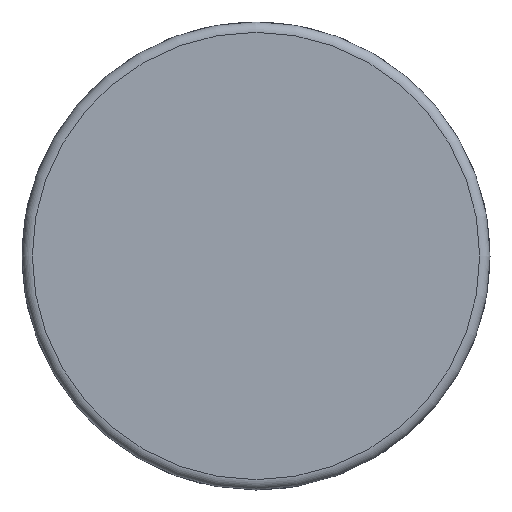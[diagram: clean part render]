
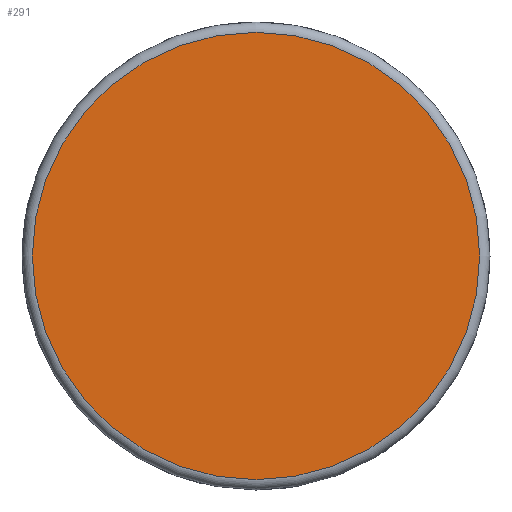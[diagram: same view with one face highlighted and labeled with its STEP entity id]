
A CAD part, front view. The second image highlights one B-rep face of the part: STEP entity #291.
In plain terms, the highlighted planar face has unit normal (0, -1, 0).
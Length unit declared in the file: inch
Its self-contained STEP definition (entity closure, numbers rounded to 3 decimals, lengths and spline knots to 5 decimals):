
#18=PLANE('',#331);
#51=FACE_OUTER_BOUND('',#68,.T.);
#68=EDGE_LOOP('',(#215,#216));
#86=CIRCLE('',#323,0.1305);
#90=CIRCLE('',#327,0.1305);
#124=VERTEX_POINT('',#576);
#125=VERTEX_POINT('',#577);
#157=EDGE_CURVE('',#124,#125,#86,.T.);
#161=EDGE_CURVE('',#125,#124,#90,.T.);
#215=ORIENTED_EDGE('',*,*,#157,.F.);
#216=ORIENTED_EDGE('',*,*,#161,.F.);
#291=ADVANCED_FACE('',(#51),#18,.T.);
#323=AXIS2_PLACEMENT_3D('',#578,#382,#383);
#327=AXIS2_PLACEMENT_3D('',#584,#390,#391);
#331=AXIS2_PLACEMENT_3D('',#591,#399,#400);
#382=DIRECTION('center_axis',(0.,1.,0.));
#383=DIRECTION('ref_axis',(0.,0.,1.));
#390=DIRECTION('center_axis',(0.,1.,0.));
#391=DIRECTION('ref_axis',(0.,0.,1.));
#399=DIRECTION('center_axis',(0.,-1.,0.));
#400=DIRECTION('ref_axis',(0.,0.,-1.));
#576=CARTESIAN_POINT('',(0.,0.,-0.1305));
#577=CARTESIAN_POINT('',(0.,0.,0.1305));
#578=CARTESIAN_POINT('Origin',(0.,0.,0.));
#584=CARTESIAN_POINT('Origin',(0.,0.,0.));
#591=CARTESIAN_POINT('Origin',(0.,0.,0.));
